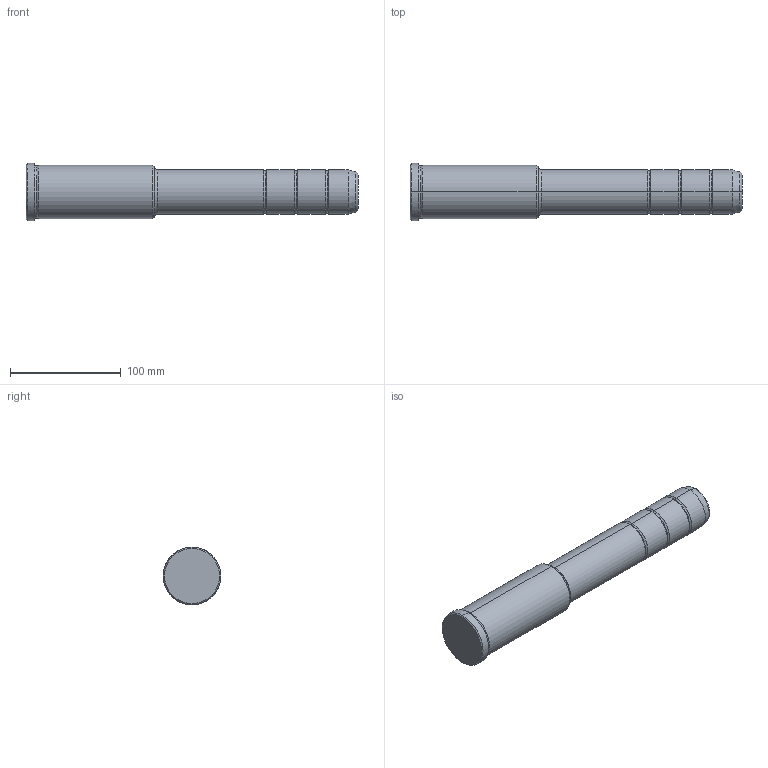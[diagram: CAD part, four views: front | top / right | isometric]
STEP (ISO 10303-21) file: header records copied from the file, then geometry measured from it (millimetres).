
FILE_DESCRIPTION(('CATIA V5 STEP Exchange'),'2;1');
FILE_NAME('C:\Users\Utente\Desktop\IO LAVORO\3D X SITO CF\X SITO\PLASTICA\351\351-40X116X300.stp','2021-10-07T13:11:52+00:00',('none'),('none'),'CATIA Version 5 Release 20 GA (IN-10)','CATIA V5 STEP AP203','none');
FILE_SCHEMA(('CONFIG_CONTROL_DESIGN'));
Length unit declared in the file: millimetre
Products named in the file (1): 351-40X116X300
Bounding box: 300 x 52 x 52 mm (x, y, z)
Volume: 441192.5 mm3; surface area: 44498.1 mm2
Topology: 1 solids, 1 shells, 42 faces, 118 edges, 80 vertices
Faces by surface type: torus 20, cylinder 12, cone 6, plane 4
Entity records: 1472 total; most frequent: CARTESIAN_POINT 353, ORIENTED_EDGE 236, DIRECTION 194, AXIS2_PLACEMENT_3D 135, EDGE_CURVE 118, CIRCLE 92, VERTEX_POINT 80, EDGE_LOOP 44
